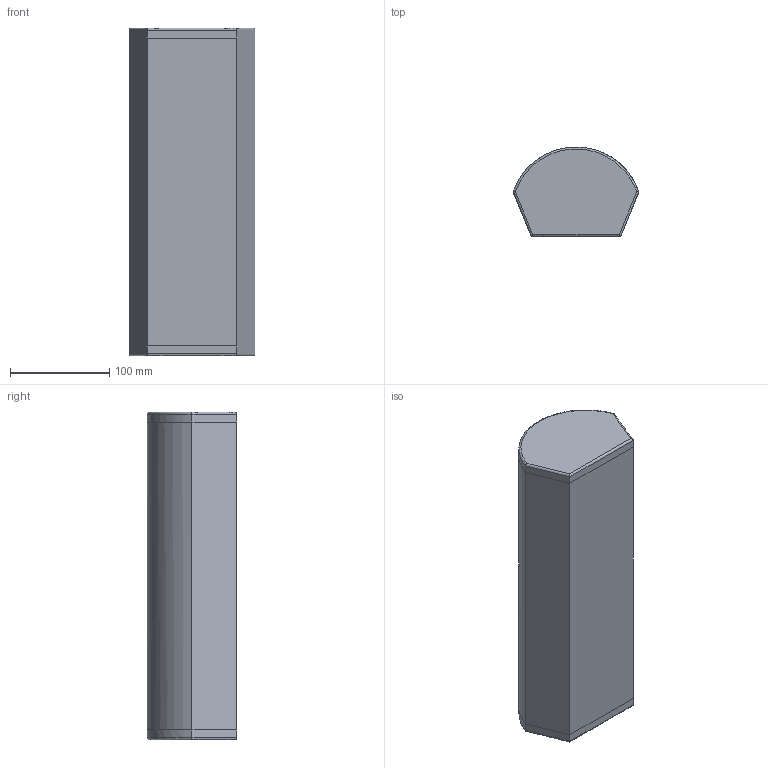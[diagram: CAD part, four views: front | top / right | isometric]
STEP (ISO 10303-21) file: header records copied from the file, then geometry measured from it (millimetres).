
FILE_DESCRIPTION (( 'STEP AP203' ), '1' );
FILE_NAME ('ALDO 355 - A3432070.STEP', '2026-01-20T08:14:29', ( '' ), ( '' ), 'SwSTEP 2.0', 'SolidWorks 2025', '' );
FILE_SCHEMA (( 'CONFIG_CONTROL_DESIGN' ));
Length unit declared in the file: millimetre
Products named in the file (3): ALDOPANTALLA; ALDO 355 - A3432070; ALDOBORDE
Assembly tree (3 placements, depth 2):
  ALDO 355 - A3432070
    ALDOPANTALLA
    ALDOBORDE  x2
Bounding box: 126.52 x 89.94 x 330 mm (x, y, z)
Volume: 2978482.4 mm3; surface area: 169963.8 mm2
Topology: 3 solids, 3 shells, 26 faces, 52 edges, 32 vertices
Faces by surface type: bspline 26
Entity records: 1008 total; most frequent: CARTESIAN_POINT 462, ORIENTED_EDGE 64, EDGE_CURVE 32, B_SPLINE_CURVE_WITH_KNOTS 29, PERSON_AND_ORGANIZATION 27, CALENDAR_DATE 21, COORDINATED_UNIVERSAL_TIME_OFFSET 21, LOCAL_TIME 21
